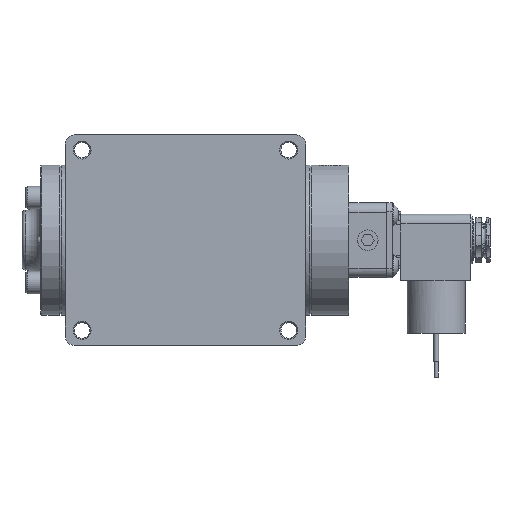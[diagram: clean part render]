
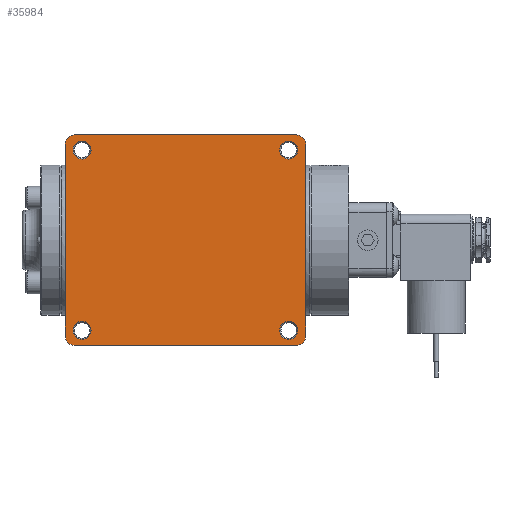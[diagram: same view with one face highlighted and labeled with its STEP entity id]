
A CAD part, front view. The second image highlights one B-rep face of the part: STEP entity #35984.
In plain terms, the highlighted planar face has unit normal (0, -1, 0).
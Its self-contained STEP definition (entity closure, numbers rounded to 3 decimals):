
#3014=LINE('',#59215,#5025);
#3044=LINE('',#59447,#5055);
#3546=LINE('',#73419,#5557);
#3549=LINE('',#73432,#5560);
#5025=VECTOR('',#45953,8.096);
#5055=VECTOR('',#46053,9.366);
#5557=VECTOR('',#47699,9.366);
#5560=VECTOR('',#47714,8.096);
#6873=PLANE('',#39314);
#7371=FACE_BOUND('',#12027,.T.);
#7372=FACE_BOUND('',#12028,.T.);
#7373=FACE_BOUND('',#12029,.T.);
#7374=FACE_BOUND('',#12030,.T.);
#9425=FACE_OUTER_BOUND('',#12026,.T.);
#12026=EDGE_LOOP('',(#30420,#30421,#30422,#30423,#30424,#30425,#30426,#30427));
#12027=EDGE_LOOP('',(#30428));
#12028=EDGE_LOOP('',(#30429));
#12029=EDGE_LOOP('',(#30430));
#12030=EDGE_LOOP('',(#30431));
#13548=CIRCLE('',#38734,0.397);
#13551=CIRCLE('',#38739,0.397);
#13775=CIRCLE('',#39306,0.397);
#13779=CIRCLE('',#39312,0.397);
#13780=CIRCLE('',#39315,0.381);
#13781=CIRCLE('',#39316,0.381);
#13782=CIRCLE('',#39317,0.381);
#13783=CIRCLE('',#39318,0.381);
#15869=VERTEX_POINT('',#59213);
#15870=VERTEX_POINT('',#59214);
#15923=VERTEX_POINT('',#59440);
#15924=VERTEX_POINT('',#59441);
#15925=VERTEX_POINT('',#59446);
#16790=VERTEX_POINT('',#73414);
#16791=VERTEX_POINT('',#73418);
#16795=VERTEX_POINT('',#73428);
#16796=VERTEX_POINT('',#73434);
#16797=VERTEX_POINT('',#73436);
#16798=VERTEX_POINT('',#73438);
#16799=VERTEX_POINT('',#73440);
#19973=EDGE_CURVE('',#15869,#15870,#3014,.T.);
#20038=EDGE_CURVE('',#15923,#15924,#13548,.T.);
#20041=EDGE_CURVE('',#15924,#15925,#3044,.T.);
#20047=EDGE_CURVE('',#15925,#15869,#13551,.T.);
#21444=EDGE_CURVE('',#15870,#16790,#13775,.T.);
#21446=EDGE_CURVE('',#16790,#16791,#3546,.T.);
#21451=EDGE_CURVE('',#16791,#16795,#13779,.T.);
#21453=EDGE_CURVE('',#16795,#15923,#3549,.T.);
#21454=EDGE_CURVE('',#16796,#16796,#13780,.T.);
#21455=EDGE_CURVE('',#16797,#16797,#13781,.T.);
#21456=EDGE_CURVE('',#16798,#16798,#13782,.T.);
#21457=EDGE_CURVE('',#16799,#16799,#13783,.T.);
#30420=ORIENTED_EDGE('',*,*,#21444,.T.);
#30421=ORIENTED_EDGE('',*,*,#21446,.T.);
#30422=ORIENTED_EDGE('',*,*,#21451,.T.);
#30423=ORIENTED_EDGE('',*,*,#21453,.T.);
#30424=ORIENTED_EDGE('',*,*,#20038,.T.);
#30425=ORIENTED_EDGE('',*,*,#20041,.T.);
#30426=ORIENTED_EDGE('',*,*,#20047,.T.);
#30427=ORIENTED_EDGE('',*,*,#19973,.T.);
#30428=ORIENTED_EDGE('',*,*,#21454,.T.);
#30429=ORIENTED_EDGE('',*,*,#21455,.T.);
#30430=ORIENTED_EDGE('',*,*,#21456,.T.);
#30431=ORIENTED_EDGE('',*,*,#21457,.T.);
#35984=ADVANCED_FACE('',(#9425,#7371,#7372,#7373,#7374),#6873,.T.);
#38734=AXIS2_PLACEMENT_3D('',#59442,#46047,#46048);
#38739=AXIS2_PLACEMENT_3D('',#59457,#46063,#46064);
#39306=AXIS2_PLACEMENT_3D('',#73415,#47694,#47695);
#39312=AXIS2_PLACEMENT_3D('',#73429,#47709,#47710);
#39314=AXIS2_PLACEMENT_3D('',#73433,#47715,#47716);
#39315=AXIS2_PLACEMENT_3D('',#73435,#47717,#47718);
#39316=AXIS2_PLACEMENT_3D('',#73437,#47719,#47720);
#39317=AXIS2_PLACEMENT_3D('',#73439,#47721,#47722);
#39318=AXIS2_PLACEMENT_3D('',#73441,#47723,#47724);
#45953=DIRECTION('',(0.,0.,1.));
#46047=DIRECTION('center_axis',(0.,-1.,0.));
#46048=DIRECTION('ref_axis',(-0.707,0.,-0.707));
#46053=DIRECTION('',(1.,0.,0.));
#46063=DIRECTION('center_axis',(0.,-1.,0.));
#46064=DIRECTION('ref_axis',(0.707,0.,-0.707));
#47694=DIRECTION('center_axis',(0.,-1.,0.));
#47695=DIRECTION('ref_axis',(0.707,0.,0.707));
#47699=DIRECTION('',(-1.,0.,0.));
#47709=DIRECTION('center_axis',(0.,-1.,0.));
#47710=DIRECTION('ref_axis',(-0.707,0.,0.707));
#47714=DIRECTION('',(0.,0.,-1.));
#47715=DIRECTION('center_axis',(0.,-1.,0.));
#47716=DIRECTION('ref_axis',(0.,0.,-1.));
#47717=DIRECTION('center_axis',(0.,1.,0.));
#47718=DIRECTION('ref_axis',(1.,0.,0.));
#47719=DIRECTION('center_axis',(0.,1.,0.));
#47720=DIRECTION('ref_axis',(1.,0.,0.));
#47721=DIRECTION('center_axis',(0.,1.,0.));
#47722=DIRECTION('ref_axis',(1.,0.,0.));
#47723=DIRECTION('center_axis',(0.,1.,0.));
#47724=DIRECTION('ref_axis',(1.,0.,0.));
#59213=CARTESIAN_POINT('',(5.08,-3.335,-4.048));
#59214=CARTESIAN_POINT('',(5.08,-3.335,4.048));
#59215=CARTESIAN_POINT('',(5.08,-3.335,-2.223));
#59440=CARTESIAN_POINT('',(-5.08,-3.335,-4.048));
#59441=CARTESIAN_POINT('',(-4.683,-3.335,-4.445));
#59442=CARTESIAN_POINT('Origin',(-4.683,-3.335,-4.048));
#59446=CARTESIAN_POINT('',(4.683,-3.335,-4.445));
#59447=CARTESIAN_POINT('',(0.087,-3.335,-4.445));
#59457=CARTESIAN_POINT('Origin',(4.683,-3.335,-4.048));
#73414=CARTESIAN_POINT('',(4.683,-3.335,4.445));
#73415=CARTESIAN_POINT('Origin',(4.683,-3.335,4.048));
#73418=CARTESIAN_POINT('',(-4.683,-3.335,4.445));
#73419=CARTESIAN_POINT('',(5.167,-3.335,4.445));
#73428=CARTESIAN_POINT('',(-5.08,-3.335,4.048));
#73429=CARTESIAN_POINT('Origin',(-4.683,-3.335,4.048));
#73432=CARTESIAN_POINT('',(-5.08,-3.335,2.223));
#73433=CARTESIAN_POINT('Origin',(5.254,-3.335,0.));
#73434=CARTESIAN_POINT('',(4.747,-3.335,3.81));
#73435=CARTESIAN_POINT('Origin',(4.366,-3.335,3.81));
#73436=CARTESIAN_POINT('',(4.747,-3.335,-3.81));
#73437=CARTESIAN_POINT('Origin',(4.366,-3.335,-3.81));
#73438=CARTESIAN_POINT('',(-3.985,-3.335,-3.81));
#73439=CARTESIAN_POINT('Origin',(-4.366,-3.335,-3.81));
#73440=CARTESIAN_POINT('',(-3.985,-3.335,3.81));
#73441=CARTESIAN_POINT('Origin',(-4.366,-3.335,3.81));
